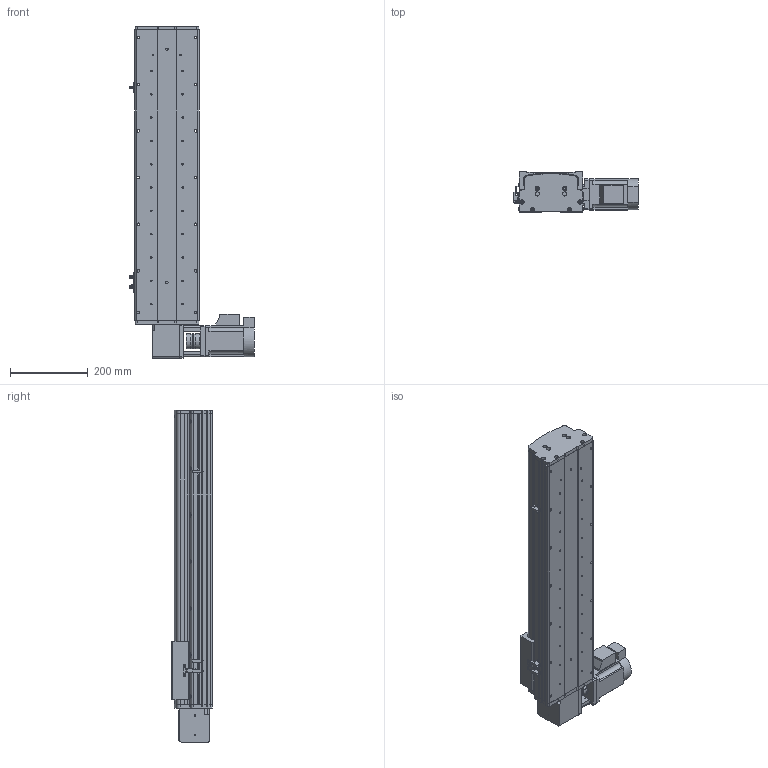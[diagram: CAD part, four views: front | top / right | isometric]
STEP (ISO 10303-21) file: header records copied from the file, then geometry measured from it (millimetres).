
FILE_DESCRIPTION (( 'STEP AP214' ), '1' );
FILE_NAME ('KSD165B-S500-MRT-CM.STEP', '2017-08-07T09:24:40', ( '微软用户' ), ( '微软中国' ), 'SwSTEP 2.0', 'SolidWorks 2014', '' );
FILE_SCHEMA (( 'AUTOMOTIVE_DESIGN' ));
Length unit declared in the file: millimetre
Products named in the file (16): 拸秶雄ん750W侜督萇儂; 165宽安装板同步带带电机座750W; 165宽马达安装板同步带右; C39ㄜ1419WP; KSD165模组-同步带防尘盖1-500行程-最新版; U倰嫖萇假蚾璃; U倰嫖萇EEㄜSX672; 覜茼え68遵圉猾敕; KSD165模组-同步带-防撞垫2; KSD165模组同步带-防撞垫1; KSD165耀郪-ヶ傷啣1-肮祭湍; KSD165模组-后端板1-同步带; 130宽马达安装板1-带电机座750W（1）; KSD165模组-同步带滑动座-最新版; KSD165模组同步带底板-500行程-最新; KSD165B-S500-MRT-CM
Assembly tree (19 placements, depth 2):
  KSD165B-S500-MRT-CM
    KSD165模组同步带底板-500行程-最新
    KSD165模组-同步带滑动座-最新版
    130宽马达安装板1-带电机座750W（1）
    KSD165模组-后端板1-同步带
    KSD165耀郪-ヶ傷啣1-肮祭湍
    KSD165模组同步带-防撞垫1
    KSD165模组-同步带-防撞垫2
    覜茼え68遵圉猾敕
    U倰嫖萇EEㄜSX672  x3
    U倰嫖萇假蚾璃  x3
    KSD165模组-同步带防尘盖1-500行程-最新版
    C39ㄜ1419WP
    165宽马达安装板同步带右
    165宽安装板同步带带电机座750W
    拸秶雄ん750W侜督萇儂
Bounding box: 321.2 x 104 x 854 mm (x, y, z)
Volume: 5628390.7 mm3; surface area: 1250021 mm2
Topology: 20 solids, 20 shells, 1438 faces, 3990 edges, 2581 vertices
Faces by surface type: cylinder 771, plane 573, cone 94
Entity records: 45191 total; most frequent: CARTESIAN_POINT 9497, DIRECTION 7048, ORIENTED_EDGE 6632, EDGE_CURVE 3316, AXIS2_PLACEMENT_3D 2668, VERTEX_POINT 2173, LINE 1712, VECTOR 1712
